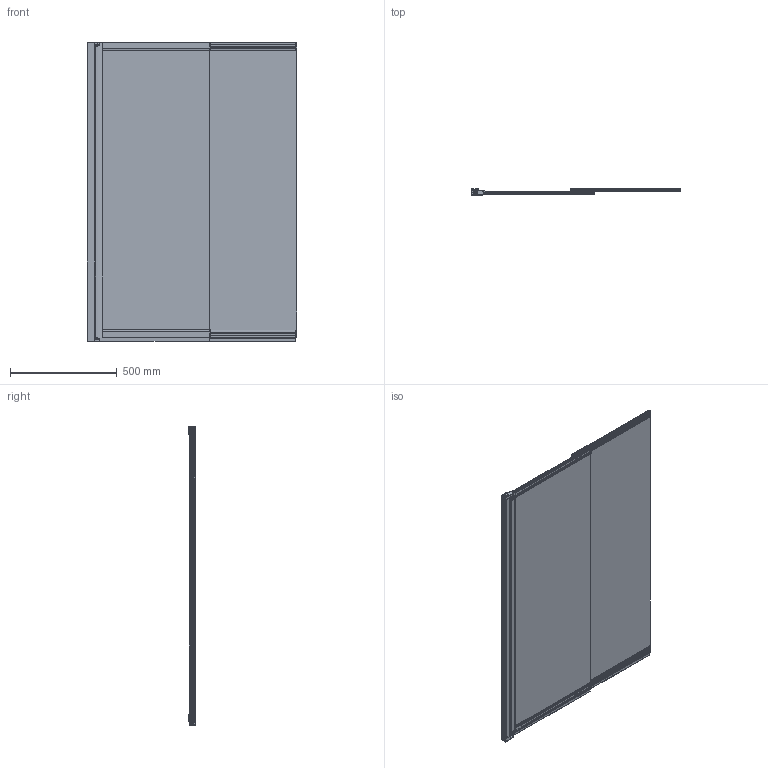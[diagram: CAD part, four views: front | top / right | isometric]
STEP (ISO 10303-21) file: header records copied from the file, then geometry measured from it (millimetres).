
FILE_DESCRIPTION(/* description */ (''),/* implementation_level */ '2;1');
FILE_NAME(/* name */ 'BQ1222.stp',/* time_stamp */ '2023-09-12T14:50:38+08:00',/* author */ (''),/* organization */ (''),/* preprocessor_version */ 'ST-DEVELOPER v14',/* originating_system */ 'SIEMENS PLM Software NX 8.0',/* authorisation */ '');
FILE_SCHEMA (('CONFIG_CONTROL_DESIGN'));
Products named in the file (1): BQ1222
Bounding box: 979.89 x 30.9 x 1402.04 mm (x, y, z)
Volume: 9162590.5 mm3; surface area: 4453257.7 mm2
Topology: 64 solids, 64 shells, 4002 faces, 10258 edges, 6397 vertices
Faces by surface type: cylinder 1809, plane 1122, torus 460, bspline 362, cone 126, sphere 107, extrusion 16
Full cylindrical faces by diameter (mm): 5 x8, 7 x8, 8 x8, 10 x8, 12 x16
Entity records: 228308 total; most frequent: CARTESIAN_POINT 134334, ORIENTED_EDGE 20156, DIRECTION 19099, EDGE_CURVE 10078, AXIS2_PLACEMENT_3D 7285, VERTEX_POINT 6365, VECTOR 4529, LINE 4513
